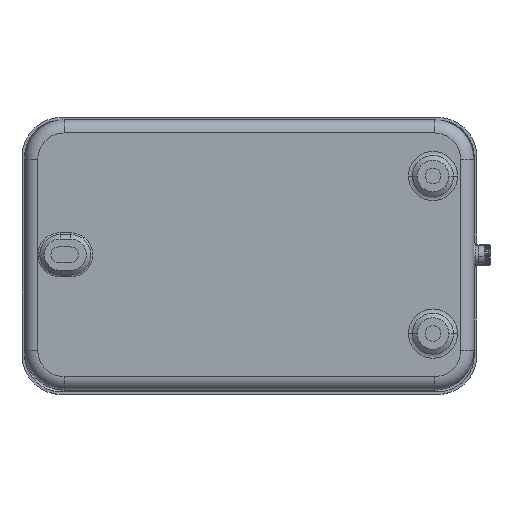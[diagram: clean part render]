
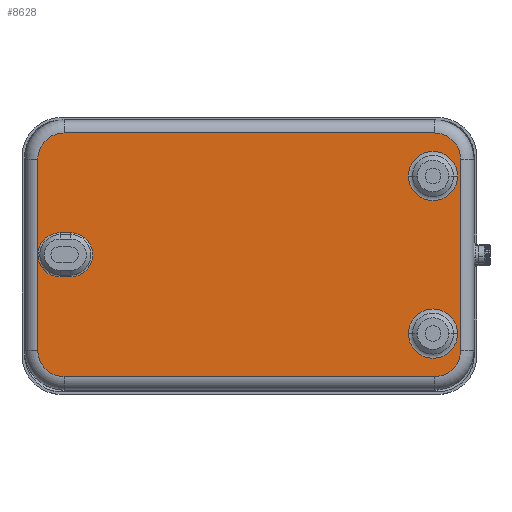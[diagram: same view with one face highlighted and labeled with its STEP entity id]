
A CAD part, top view. The second image highlights one B-rep face of the part: STEP entity #8628.
In plain terms, the highlighted planar face has unit normal (0, 0, 1).
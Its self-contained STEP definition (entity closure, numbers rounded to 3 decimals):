
#1584=DIRECTION('',(1.,0.,0.));
#1585=VECTOR('',#1584,141.);
#1586=CARTESIAN_POINT('',(15.,5.,-2.));
#1587=LINE('',#1586,#1585);
#1592=CARTESIAN_POINT('',(15.,87.8,-2.));
#1593=DIRECTION('',(0.,0.,-1.));
#1594=DIRECTION('',(-1.,0.,0.));
#1595=AXIS2_PLACEMENT_3D('',#1592,#1593,#1594);
#1597=CARTESIAN_POINT('',(156.,87.8,-2.));
#1598=DIRECTION('',(0.,0.,-1.));
#1599=DIRECTION('',(0.,1.,0.));
#1600=AXIS2_PLACEMENT_3D('',#1597,#1598,#1599);
#1602=CARTESIAN_POINT('',(156.,15.,-2.));
#1603=DIRECTION('',(0.,0.,-1.));
#1604=DIRECTION('',(1.,0.,0.));
#1605=AXIS2_PLACEMENT_3D('',#1602,#1603,#1604);
#1607=CARTESIAN_POINT('',(15.,15.,-2.));
#1608=DIRECTION('',(0.,0.,-1.));
#1609=DIRECTION('',(0.,-1.,0.));
#1610=AXIS2_PLACEMENT_3D('',#1607,#1608,#1609);
#1612=CARTESIAN_POINT('',(155.5,81.4,-2.));
#1613=DIRECTION('',(0.,0.,1.));
#1614=DIRECTION('',(-1.,0.,0.));
#1615=AXIS2_PLACEMENT_3D('',#1612,#1613,#1614);
#1617=CARTESIAN_POINT('',(155.5,81.4,-2.));
#1618=DIRECTION('',(0.,0.,1.));
#1619=DIRECTION('',(1.,0.,0.));
#1620=AXIS2_PLACEMENT_3D('',#1617,#1618,#1619);
#1622=CARTESIAN_POINT('',(155.5,21.4,-2.));
#1623=DIRECTION('',(0.,0.,1.));
#1624=DIRECTION('',(-1.,0.,0.));
#1625=AXIS2_PLACEMENT_3D('',#1622,#1623,#1624);
#1627=CARTESIAN_POINT('',(155.5,21.4,-2.));
#1628=DIRECTION('',(0.,0.,1.));
#1629=DIRECTION('',(1.,0.,0.));
#1630=AXIS2_PLACEMENT_3D('',#1627,#1628,#1629);
#1632=CARTESIAN_POINT('',(13.5,51.4,-2.));
#1633=DIRECTION('',(0.,0.,1.));
#1634=DIRECTION('',(0.,1.,0.));
#1635=AXIS2_PLACEMENT_3D('',#1632,#1633,#1634);
#1637=CARTESIAN_POINT('',(17.5,51.4,-2.));
#1638=DIRECTION('',(0.,0.,1.));
#1639=DIRECTION('',(0.,-1.,0.));
#1640=AXIS2_PLACEMENT_3D('',#1637,#1638,#1639);
#1657=DIRECTION('',(0.,-1.,0.));
#1658=VECTOR('',#1657,72.8);
#1659=CARTESIAN_POINT('',(5.,87.8,-2.));
#1660=LINE('',#1659,#1658);
#1680=DIRECTION('',(-1.,0.,0.));
#1681=VECTOR('',#1680,141.);
#1682=CARTESIAN_POINT('',(156.,97.8,-2.));
#1683=LINE('',#1682,#1681);
#1703=DIRECTION('',(0.,1.,0.));
#1704=VECTOR('',#1703,72.8);
#1705=CARTESIAN_POINT('',(166.,15.,-2.));
#1706=LINE('',#1705,#1704);
#2271=DIRECTION('',(1.,0.,0.));
#2272=VECTOR('',#2271,4.);
#2273=CARTESIAN_POINT('',(13.5,59.814,-2.));
#2274=LINE('',#2273,#2272);
#2299=DIRECTION('',(-1.,0.,0.));
#2300=VECTOR('',#2299,4.);
#2301=CARTESIAN_POINT('',(17.5,42.986,-2.));
#2302=LINE('',#2301,#2300);
#5775=CARTESIAN_POINT('',(15.,5.,-2.));
#5776=CARTESIAN_POINT('',(5.,15.,-2.));
#5777=VERTEX_POINT('',#5775);
#5778=VERTEX_POINT('',#5776);
#5779=CARTESIAN_POINT('',(5.,87.8,-2.));
#5780=CARTESIAN_POINT('',(15.,97.8,-2.));
#5781=VERTEX_POINT('',#5779);
#5782=VERTEX_POINT('',#5780);
#5783=CARTESIAN_POINT('',(156.,97.8,-2.));
#5784=VERTEX_POINT('',#5783);
#5785=CARTESIAN_POINT('',(166.,87.8,-2.));
#5786=VERTEX_POINT('',#5785);
#5787=CARTESIAN_POINT('',(166.,15.,-2.));
#5788=VERTEX_POINT('',#5787);
#5789=CARTESIAN_POINT('',(156.,5.,-2.));
#5790=VERTEX_POINT('',#5789);
#5791=CARTESIAN_POINT('',(146.123,81.4,-2.));
#5792=CARTESIAN_POINT('',(164.877,81.4,-2.));
#5793=VERTEX_POINT('',#5791);
#5794=VERTEX_POINT('',#5792);
#5795=CARTESIAN_POINT('',(146.123,21.4,-2.));
#5796=CARTESIAN_POINT('',(164.877,21.4,-2.));
#5797=VERTEX_POINT('',#5795);
#5798=VERTEX_POINT('',#5796);
#5799=CARTESIAN_POINT('',(13.5,59.814,-2.));
#5800=CARTESIAN_POINT('',(17.5,59.814,-2.));
#5801=VERTEX_POINT('',#5799);
#5802=VERTEX_POINT('',#5800);
#5803=CARTESIAN_POINT('',(13.5,42.986,-2.));
#5804=VERTEX_POINT('',#5803);
#5805=CARTESIAN_POINT('',(17.5,42.986,-2.));
#5806=VERTEX_POINT('',#5805);
#8584=CARTESIAN_POINT('',(85.5,51.4,-2.));
#8585=DIRECTION('',(0.,0.,1.));
#8586=DIRECTION('',(-1.,0.,0.));
#8587=AXIS2_PLACEMENT_3D('',#8584,#8585,#8586);
#8588=PLANE('',#8587);
#8590=ORIENTED_EDGE('',*,*,#8589,.T.);
#8592=ORIENTED_EDGE('',*,*,#8591,.F.);
#8594=ORIENTED_EDGE('',*,*,#8593,.T.);
#8596=ORIENTED_EDGE('',*,*,#8595,.F.);
#8598=ORIENTED_EDGE('',*,*,#8597,.T.);
#8599=ORIENTED_EDGE('',*,*,#8574,.F.);
#8601=ORIENTED_EDGE('',*,*,#8600,.T.);
#8603=ORIENTED_EDGE('',*,*,#8602,.F.);
#8604=EDGE_LOOP('',(#8590,#8592,#8594,#8596,#8598,#8599,#8601,#8603));
#8605=FACE_OUTER_BOUND('',#8604,.F.);
#8607=ORIENTED_EDGE('',*,*,#8606,.T.);
#8609=ORIENTED_EDGE('',*,*,#8608,.T.);
#8610=EDGE_LOOP('',(#8607,#8609));
#8611=FACE_BOUND('',#8610,.F.);
#8613=ORIENTED_EDGE('',*,*,#8612,.T.);
#8615=ORIENTED_EDGE('',*,*,#8614,.T.);
#8616=EDGE_LOOP('',(#8613,#8615));
#8617=FACE_BOUND('',#8616,.F.);
#8619=ORIENTED_EDGE('',*,*,#8618,.F.);
#8621=ORIENTED_EDGE('',*,*,#8620,.T.);
#8623=ORIENTED_EDGE('',*,*,#8622,.F.);
#8625=ORIENTED_EDGE('',*,*,#8624,.T.);
#8626=EDGE_LOOP('',(#8619,#8621,#8623,#8625));
#8627=FACE_BOUND('',#8626,.F.);
#8628=ADVANCED_FACE('',(#8605,#8611,#8617,#8627),#8588,.T.);
#1596=CIRCLE('',#1595,10.);
#1601=CIRCLE('',#1600,10.);
#1606=CIRCLE('',#1605,10.);
#1611=CIRCLE('',#1610,10.);
#1616=CIRCLE('',#1615,9.377);
#1621=CIRCLE('',#1620,9.377);
#1626=CIRCLE('',#1625,9.377);
#1631=CIRCLE('',#1630,9.377);
#1636=CIRCLE('',#1635,8.414);
#1641=CIRCLE('',#1640,8.414);
#8574=EDGE_CURVE('',#5777,#5790,#1587,.T.);
#8589=EDGE_CURVE('',#5781,#5782,#1596,.T.);
#8591=EDGE_CURVE('',#5784,#5782,#1683,.T.);
#8593=EDGE_CURVE('',#5784,#5786,#1601,.T.);
#8595=EDGE_CURVE('',#5788,#5786,#1706,.T.);
#8597=EDGE_CURVE('',#5788,#5790,#1606,.T.);
#8600=EDGE_CURVE('',#5777,#5778,#1611,.T.);
#8602=EDGE_CURVE('',#5781,#5778,#1660,.T.);
#8606=EDGE_CURVE('',#5793,#5794,#1616,.T.);
#8608=EDGE_CURVE('',#5794,#5793,#1621,.T.);
#8612=EDGE_CURVE('',#5797,#5798,#1626,.T.);
#8614=EDGE_CURVE('',#5798,#5797,#1631,.T.);
#8618=EDGE_CURVE('',#5801,#5802,#2274,.T.);
#8620=EDGE_CURVE('',#5801,#5804,#1636,.T.);
#8622=EDGE_CURVE('',#5806,#5804,#2302,.T.);
#8624=EDGE_CURVE('',#5806,#5802,#1641,.T.);
